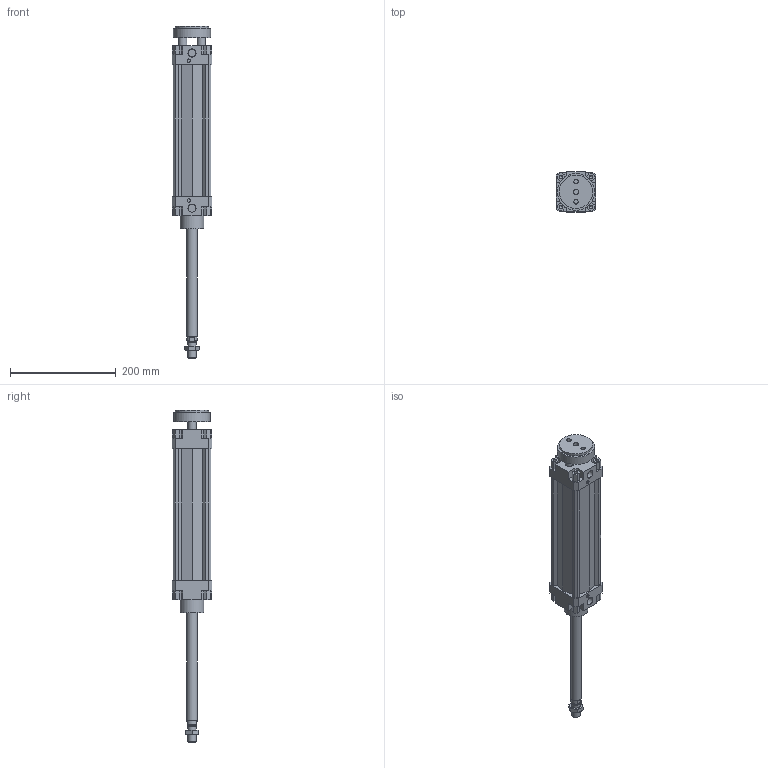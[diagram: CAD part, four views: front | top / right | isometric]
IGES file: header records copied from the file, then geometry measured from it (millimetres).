
Global section: file name: 132#_063_0200_02; native system: Autodesk Inventor 2014; preprocessor: unknown; author: A. Manieri; date: 20161006.155957; units: millimetre
Bounding box: 75 x 75 x 627 mm (x, y, z)
Volume: 1107198.3 mm3; surface area: 258328.5 mm2
Topology: 3 solids, 3 shells, 220 faces, 589 edges, 397 vertices
Faces by surface type: bspline 220
